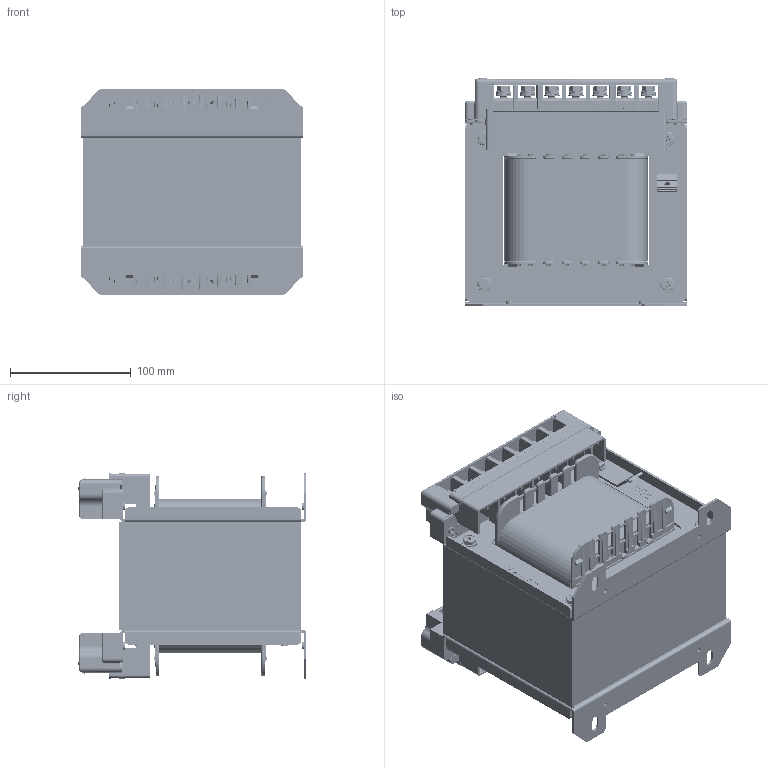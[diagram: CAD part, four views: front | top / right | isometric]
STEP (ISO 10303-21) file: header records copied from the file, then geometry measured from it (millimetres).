
FILE_DESCRIPTION (( 'STEP AP214' ), '1' );
FILE_NAME ('UL TRANS Ass''Y_1P-1.5KVA_rev.0.STEP', '2018-10-17T00:58:48', ( 'Registered User' ), ( 'Microsoft Corporation' ), 'SwSTEP 2.0', 'SolidWorks 2018', '' );
FILE_SCHEMA (( 'AUTOMOTIVE_DESIGN' ));
Length unit declared in the file: millimetre
Products named in the file (23): TRANS 180 欽濠渠_TERMINAL; 180欽濠渠-BODY_REV1; TGI-M0046_R01_遢醴幗 180-A; UL TRANS 1.5KVA BARRIER_P00; TRANS 2KVA EI CORE_P00; TRANS 1.5KVA COIL; TRANS BOBBIN(181.2-90)_P02_P00; M6-STS-FLANGE NUT_P00; WBS)6x105_P00; UL TRANS Ass''Y_1P-1.5KVA_rev.0; 16mm立瘤窜磊(NEW180窜磊措 利侩 140625_REV_0; 180 欽濠渠 ASS''Y_REV1; 152 欽濠渠_PCB ASS''Y; LED(赤5); 152 欽濠渠_LED PCB; spring lock washer_ks_KS 1324 - M5; conical spring washer (class 1)_ks_KS 1329 C1 - M5 x 1L; M6x12(HEX); M6(ゎ諦凜); M6(蝶Щ葭諦凜); 180 TERMINAL COVER; 180 欽濠渠 寰瞪 COVER
Assembly tree (57 placements, depth 4):
  UL TRANS Ass''Y_1P-1.5KVA_rev.0
    TRANS BOBBIN(181.2-90)_P02_P00
    TRANS 2KVA EI CORE_P00
    TGI-M0046_R01_遢醴幗 180-A  x2
    180 欽濠渠 ASS''Y_REV1  x2
      180欽濠渠-BODY_REV1
      TRANS 180 欽濠渠_TERMINAL
      180 欽濠渠 寰瞪 COVER
      180 TERMINAL COVER
      M6x12(HEX)
        M6(蝶Щ葭諦凜)
        M6(ゎ諦凜)
        M6x12(HEX)
      conical spring washer (class 1)_ks_KS 1329 C1 - M5 x 1L
      spring lock washer_ks_KS 1324 - M5
      152 欽濠渠_PCB ASS''Y
        152 欽濠渠_LED PCB
        LED(赤5)
    16mm立瘤窜磊(NEW180窜磊措 利侩 140625_REV_0
    WBS)6x105_P00  x4
    M6-STS-FLANGE NUT_P00  x4
    TRANS 1.5KVA COIL
    UL TRANS 1.5KVA BARRIER_P00  x4
Bounding box: 184 x 189.1 x 170 mm (x, y, z)
Volume: 3261713.4 mm3; surface area: 710338.9 mm2
Topology: 112 solids, 112 shells, 10827 faces, 29598 edges, 19116 vertices
Faces by surface type: plane 6617, cylinder 2290, bspline 1258, torus 258, cone 234, sphere 170
Entity records: 166416 total; most frequent: CARTESIAN_POINT 53829, ORIENTED_EDGE 24874, DIRECTION 20434, EDGE_CURVE 12437, VECTOR 8974, LINE 8974, VERTEX_POINT 8022, AXIS2_PLACEMENT_3D 5730
